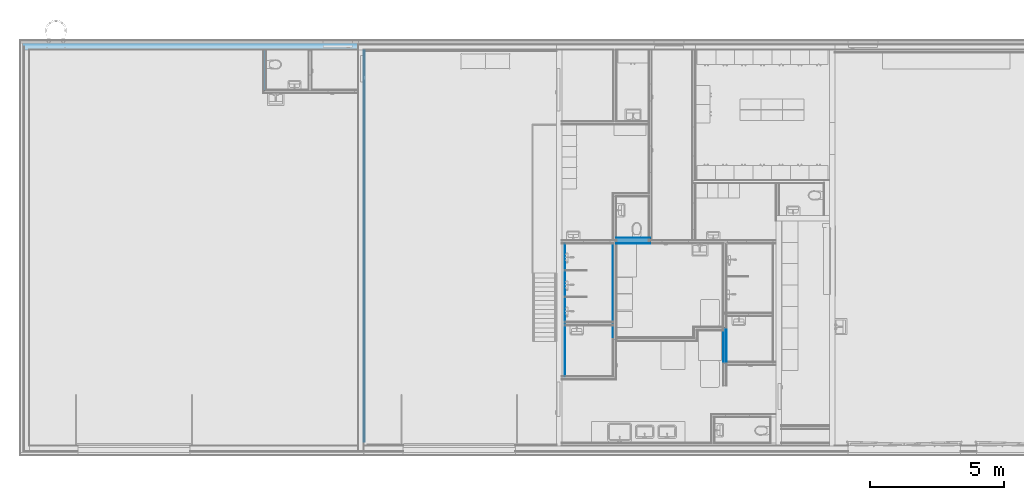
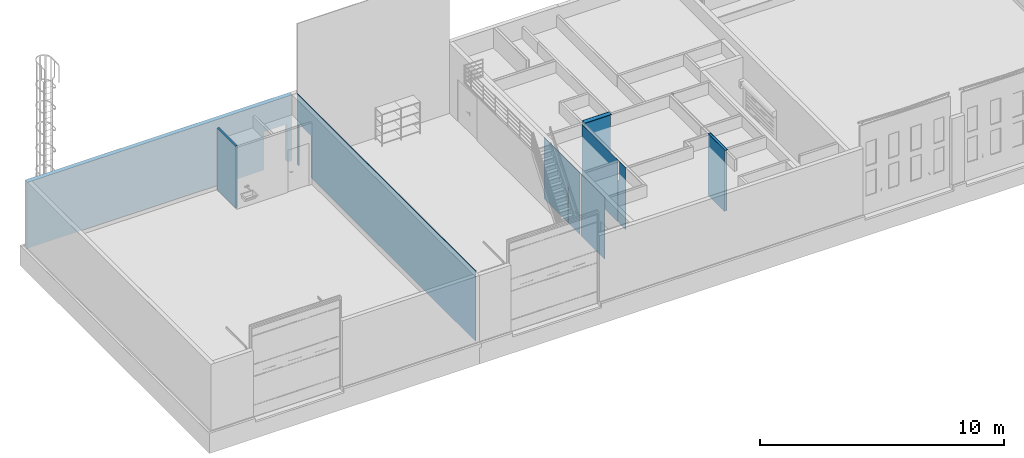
# One storey, part 14 of 67: 13 building element parts, 1 opening, 7 elements without a shape of their own, plus 2 elements that do not belong to this part.
"""IFC4 building model written with IfcOpenShell, lengths in millimetres."""

from ifc_helpers import new_model, entity, si_unit, converted_unit, direction, frame, origin, place, context, subcontext, project, spatial, indexed_curve, outline, extrude, polygons, material, type_object, element, aggregate, save


model = new_model("IFC4")

# Units and contexts
model_context = context("Model", 3, precision=0.01, world=origin(), true_north=direction((0.0, 1.0)))
body_context = subcontext(model_context, "Body", "Model", "MODEL_VIEW")
ifc_project = project(units=[si_unit("LENGTHUNIT", "METRE", prefix="MILLI"), si_unit("AREAUNIT", "SQUARE_METRE"), si_unit("VOLUMEUNIT", "CUBIC_METRE"), converted_unit("PLANEANGLEUNIT", "DEGREE", entity("IfcPlaneAngleMeasure", 0.017453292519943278), si_unit("PLANEANGLEUNIT", "RADIAN"), dimensions=[0, 0, 0, 0, 0, 0, 0])], contexts=[model_context])

# Site, building, storey
site_placement = place(None, origin())
site = spatial("IfcSite", under=ifc_project, at=site_placement, Name="Tomtens navn", CompositionType="ELEMENT")
building_placement = place(site_placement, origin())
building = spatial("IfcBuilding", under=site, at=building_placement, Name="Byggets navn", CompositionType="ELEMENT")
storey_placement = place(building_placement, origin())
storey = spatial("IfcBuildingStorey", under=building, at=storey_placement, Name="Level 01", CompositionType="ELEMENT", Elevation=2.1993652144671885e-25)

# Wall, building element part
wall_type_1 = type_object("IfcWallType", Name="Basic Wall:IV17 - Utforing lekt+fasadeplater", PredefinedType="STANDARD")
wall_1_placement = place(storey_placement, frame((51235.85352810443, 8211.46645692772, 0.0), z_axis=(0.0, 0.0, 1.0), x_axis=(0.0, 1.0, 0.0)))
wall_1 = element("IfcWall", 1, at=wall_1_placement, inside=storey, type_object=wall_type_1, Name="Basic Wall:IV17 - Utforing lekt+fasadeplater", PredefinedType="NOTDEFINED")
ifc_material_1 = material(Name="Stender", Category="Unassigned")
building_element_part_1_placement = place(wall_1_placement, frame((0.0, 23.0, 0.0)))
building_element_part_1 = element("IfcBuildingElementPart", 2, at=building_element_part_1_placement, material=ifc_material_1, Name="Stender", context=body_context, shape_type="Tessellation", body=[
    polygons([(0.0, -36.000000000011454, 7.331217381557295e-26), (13445.000000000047, -36.000000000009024, 7.331217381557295e-26), (13445.000000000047, -36.000000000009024, 2110.0000000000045), (14455.00000000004, -36.00000000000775, 2110.000000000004), (14455.00000000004, -36.00000000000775, 7.331217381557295e-26), (14614.000000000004, -36.00000000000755, 7.331217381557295e-26), (14614.000000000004, -36.00000000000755, 3499.999999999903), (0.0, -36.000000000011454, 3499.999999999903), (0.0, -1.1456257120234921e-11, 3499.999999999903), (14614.000000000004, -7.549740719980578e-12, 3499.999999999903), (14614.000000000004, -7.549740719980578e-12, 2.1993652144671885e-25), (14455.00000000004, -7.750568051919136e-12, 2.1993652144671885e-25), (14455.00000000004, -7.750568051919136e-12, 2110.000000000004), (13445.000000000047, -9.026263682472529e-12, 2110.000000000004), (13445.000000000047, -9.026263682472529e-12, 2.1993652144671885e-25), (0.0, -1.1456257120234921e-11, 1.466243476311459e-25)], [[[1, 2, 3, 4, 5, 6, 7, 8]], [[9, 10, 11, 12, 13, 14, 15, 16]], [[16, 15, 2, 1]], [[10, 9, 8, 7]], [[9, 16, 1, 8]], [[13, 12, 5, 4]], [[14, 13, 4, 3]], [[15, 14, 3, 2]], [[12, 11, 6, 5]], [[11, 10, 7, 6]]], closed=True),
])
aggregate(wall_1, [building_element_part_1])

# Wall, building element parts
wall_type_2 = type_object("IfcWallType", Name="Basic Wall:IV18 -Gips kryssfiner Stender kryssfiner-baderomsplater-13+15+200+15+11", PredefinedType="STANDARD")
wall_2_placement = place(storey_placement, frame((61925.85352810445, 15724.466456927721, 0.0), z_axis=(0.0, 0.0, 1.0), x_axis=(-1.0, 0.0, 0.0)))
wall_2 = element("IfcWall", 3, at=wall_2_placement, inside=storey, type_object=wall_type_2, Name="Basic Wall:IV18 -Gips kryssfiner Stender kryssfiner-baderomsplater-13+15+200+15+11", PredefinedType="NOTDEFINED")
ifc_material_2 = material(Name="Gipsplater", Category="NOR ^ Gips")
building_element_part_2_placement = place(wall_2_placement, frame((1278.0, 120.50000000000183, 0.0)))
building_element_part_2 = element("IfcBuildingElementPart", 4, at=building_element_part_2_placement, material=ifc_material_2, Name="Gipsplater", context=body_context, shape_type="Tessellation", body=[
    polygons([(-15.000000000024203, -13.0, 3079.9999999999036), (-9.651666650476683e-12, -13.0, 3079.9999999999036), (-9.649993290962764e-12, -1.999999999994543, 3079.9999999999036), (-15.000000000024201, -1.999999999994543, 3079.9999999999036), (-9.651666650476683e-12, -13.0, 7.331217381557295e-26), (-1217.5000000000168, -13.0, 7.331217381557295e-26), (-1217.5000000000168, 1.8189894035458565e-12, 2.1993652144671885e-25), (-15.00000000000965, 1.8189894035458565e-12, 2.1993652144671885e-25), (-15.000000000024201, -1.999999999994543, 1.466243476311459e-25), (-9.649993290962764e-12, -1.999999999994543, 1.466243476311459e-25), (-1217.5000000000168, -13.0, 3079.9999999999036), (-1217.5000000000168, 1.8189894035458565e-12, 3079.9999999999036), (-15.000000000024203, -13.0, 3087.999999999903), (-1278.0000000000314, -13.0, 3087.999999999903), (-1278.0000000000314, -13.0, 3079.9999999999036), (-1278.0000000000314, 1.8189894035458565e-12, 3079.9999999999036), (-1278.0000000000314, 1.8189894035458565e-12, 3087.999999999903), (-15.000000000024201, 1.8189894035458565e-12, 3087.999999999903), (-15.000000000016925, 1.8189894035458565e-12, 3079.9999999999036), (-15.000000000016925, -1.999999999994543, 3087.999999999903)], [[[1, 2, 3, 4]], [[5, 6, 7, 8, 9, 10]], [[2, 5, 10, 3]], [[6, 11, 12, 7]], [[6, 5, 2, 1, 13, 14, 15, 11]], [[8, 7, 12, 16, 17, 18, 19]], [[9, 8, 19, 18, 20, 13, 1, 4]], [[10, 9, 4, 3]], [[11, 15, 16, 12]], [[14, 13, 20, 18, 17]], [[16, 15, 14, 17]]], closed=True),
])
ifc_material_3 = material(Name="NO_Konstruksjon - Isolert", Category="Tre")
building_element_part_3_placement = place(wall_2_placement, frame((1278.0, 92.50000000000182, 0.0)))
building_element_part_3 = element("IfcBuildingElementPart", 5, at=building_element_part_3_placement, material=ifc_material_3, Name="NO_Konstruksjon - Isolert", context=body_context, shape_type="Tessellation", body=[
    polygons([(-9.653948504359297e-12, -1.8189894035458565e-12, 3079.9999999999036), (-15.000000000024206, -1.8189894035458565e-12, 3079.9999999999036), (-15.000000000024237, -199.99999999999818, 3079.9999999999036), (-9.684373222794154e-12, -199.99999999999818, 3079.9999999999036), (-9.670377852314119e-12, -107.99999999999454, 3079.9999999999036), (-9.653948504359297e-12, -1.8189894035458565e-12, 7.331217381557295e-26), (-1217.5000000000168, -1.8189894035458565e-12, 7.331217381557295e-26), (-1217.5000000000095, -1.8189894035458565e-12, 3079.9999999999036), (-1278.0000000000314, -1.8189894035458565e-12, 3079.9999999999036), (-1278.0000000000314, -1.8189894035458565e-12, 3087.999999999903), (-15.000000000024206, -1.8189894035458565e-12, 3087.999999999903), (-9.670377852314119e-12, -107.99999999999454, 2.1993652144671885e-25), (-9.684373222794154e-12, -199.99999999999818, 7.331217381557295e-26), (-1217.500000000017, -199.99999999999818, 7.331217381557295e-26), (-1217.500000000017, -107.99999999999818, 2.1993652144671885e-25), (-1217.500000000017, -199.99999999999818, 3079.9999999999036), (-1217.500000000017, -108.0, 3079.9999999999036), (-15.000000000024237, -199.99999999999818, 3087.999999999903), (-1278.0000000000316, -199.99999999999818, 3087.999999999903), (-1278.0000000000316, -199.99999999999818, 3079.9999999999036), (-1278.0000000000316, -107.99999999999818, 3079.9999999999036), (-15.000000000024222, -107.99999999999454, 3087.999999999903), (-1278.0000000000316, -107.99999999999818, 3087.999999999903)], [[[1, 2, 3, 4, 5]], [[6, 7, 8, 9, 10, 11, 2, 1]], [[7, 6, 12, 13, 14, 15]], [[6, 1, 5, 4, 13, 12]], [[8, 7, 15, 14, 16, 17]], [[14, 13, 4, 3, 18, 19, 20, 16]], [[9, 8, 17, 16, 20, 21]], [[2, 11, 22, 18, 3]], [[11, 10, 23, 19, 18, 22]], [[21, 20, 19, 23, 10, 9]]], closed=True),
])
building_element_part_4_placement = place(wall_2_placement, frame((1278.0, -107.50000000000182, 0.0)))
building_element_part_4 = element("IfcBuildingElementPart", 6, at=building_element_part_4_placement, material=ifc_material_2, Name="Gipsplater", context=body_context, shape_type="Tessellation", body=[
    polygons([(-2.4084156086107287e-12, 3.637978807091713e-12, 3079.9999999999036), (-15.00000000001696, 3.637978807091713e-12, 3079.9999999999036), (-15.000000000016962, -12.999999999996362, 3079.9999999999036), (-2.4103932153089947e-12, -12.999999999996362, 3079.9999999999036), (-2.4084156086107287e-12, 3.637978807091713e-12, 7.331217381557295e-26), (-1217.5000000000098, 3.637978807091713e-12, 7.331217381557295e-26), (-1217.5000000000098, 3.637978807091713e-12, 3079.9999999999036), (-1278.0000000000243, 3.637978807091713e-12, 3079.9999999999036), (-1278.0000000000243, 3.637978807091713e-12, 3087.999999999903), (-15.00000000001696, 3.637978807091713e-12, 3087.999999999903), (-2.4103932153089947e-12, -12.999999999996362, 2.1993652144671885e-25), (-1217.5000000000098, -12.999999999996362, 2.1993652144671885e-25), (-1217.5000000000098, -12.999999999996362, 3079.9999999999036), (-15.000000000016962, -12.999999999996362, 3087.999999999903), (-1278.0000000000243, -12.999999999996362, 3087.999999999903), (-1278.0000000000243, -12.999999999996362, 3079.9999999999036)], [[[1, 2, 3, 4]], [[5, 6, 7, 8, 9, 10, 2, 1]], [[6, 5, 11, 12]], [[5, 1, 4, 11]], [[7, 6, 12, 13]], [[12, 11, 4, 3, 14, 15, 16, 13]], [[8, 7, 13, 16]], [[2, 10, 14, 3]], [[10, 9, 15, 14]], [[8, 16, 15, 9]]], closed=True),
])
ifc_material_4 = material(Name="NO_Kryssfiner", Category="Tre")
building_element_part_5_placement = place(wall_2_placement, frame((1278.0, 107.49999999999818, 0.0)))
building_element_part_5 = element("IfcBuildingElementPart", 7, at=building_element_part_5_placement, material=ifc_material_4, Name="NO_Kryssfiner", context=body_context, shape_type="Tessellation", body=[
    polygons([(-15.000000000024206, -14.999999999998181, 3079.9999999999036), (-9.653948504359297e-12, -14.999999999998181, 3079.9999999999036), (-9.651666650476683e-12, 3.637978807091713e-12, 3079.9999999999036), (-15.000000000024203, 3.637978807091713e-12, 3079.9999999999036), (-1217.5000000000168, -14.999999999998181, 7.331217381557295e-26), (-9.653948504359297e-12, -14.999999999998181, 7.331217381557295e-26), (-15.000000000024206, -14.999999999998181, 3087.999999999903), (-1278.0000000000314, -14.999999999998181, 3087.999999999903), (-1278.0000000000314, -14.999999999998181, 3079.9999999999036), (-1217.5000000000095, -14.999999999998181, 3079.9999999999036), (-1217.5000000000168, 3.637978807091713e-12, 7.331217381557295e-26), (-9.651666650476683e-12, 3.637978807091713e-12, 7.331217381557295e-26), (-1217.5000000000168, 3.637978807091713e-12, 3079.9999999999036), (-1278.0000000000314, 3.637978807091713e-12, 3079.9999999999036), (-1278.0000000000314, 3.637978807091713e-12, 3087.999999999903), (-15.000000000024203, 3.637978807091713e-12, 3087.999999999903)], [[[1, 2, 3, 4]], [[5, 6, 2, 1, 7, 8, 9, 10]], [[6, 5, 11, 12]], [[2, 6, 12, 3]], [[5, 10, 13, 11]], [[12, 11, 13, 14, 15, 16, 4, 3]], [[10, 9, 14, 13]], [[7, 1, 4, 16]], [[8, 7, 16, 15]], [[14, 9, 8, 15]]], closed=True),
])
aggregate(wall_2, [building_element_part_2, building_element_part_3, building_element_part_4, building_element_part_5])

# Wall, building element part
wall_type_3 = type_object("IfcWallType", Name="Basic Wall:IV15 Gips kryssfiner 95 stålstender +15mm kryssfiner+baderomsplater 2", PredefinedType="STANDARD")
wall_3_placement = place(storey_placement, frame((60588.353528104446, 15605.966456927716, 0.0), z_axis=(0.0, 0.0, 1.0), x_axis=(0.0, -1.0, 0.0)))
wall_3 = element("IfcWall", 8, at=wall_3_placement, inside=storey, type_object=wall_type_3, Name="Basic Wall:IV15 Gips kryssfiner 95 stålstender +15mm kryssfiner+baderomsplater 2", PredefinedType="NOTDEFINED")
ifc_material_5 = material(Name="NO_Baderomsplater", Category="Tre")
building_element_part_6_placement = place(wall_3_placement, frame((3568.7500000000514, -74.50000000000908, 0.0)))
building_element_part_6 = element("IfcBuildingElementPart", 9, at=building_element_part_6_placement, material=ifc_material_5, Name="NO_Baderomsplater", context=body_context, shape_type="Tessellation", body=[
    polygons([(-519.2500000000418, 10.999999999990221, 2109.9999999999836), (-519.2500000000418, 10.999999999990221, 3079.9999999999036), (-644.2500000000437, 11.000000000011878, 3079.9999999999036), (-644.2500000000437, 11.000000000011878, 2109.9999999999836), (0.0, 10.999999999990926, 7.331217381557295e-26), (-3568.750000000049, 11.000000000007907, 7.331217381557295e-26), (-3568.750000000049, 11.000000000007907, 3079.9999999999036), (-3568.750000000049, 11.000000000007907, 3087.999999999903), (0.0, 10.999999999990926, 3087.999999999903), (0.0, 10.999999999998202, 3079.9999999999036), (0.0, 5.477919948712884e-12, 2.1993652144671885e-25), (-508.25000000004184, 4.787572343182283e-12, 2.1993652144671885e-25), (-508.25000000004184, 10.000000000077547, 2.1993652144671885e-25), (-655.2500000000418, 10.000000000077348, 2.1993652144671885e-25), (-655.2500000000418, 1.1863862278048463e-11, 2.1993652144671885e-25), (-3568.750000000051, 7.906503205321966e-12, 2.1993652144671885e-25), (-3568.750000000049, 7.90650320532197e-12, 3079.9999999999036), (-3568.750000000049, 7.90650320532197e-12, 3087.999999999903), (0.0, 5.477919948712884e-12, 3087.999999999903), (0.0, 5.477919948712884e-12, 3079.9999999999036), (-655.2500000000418, 1.1863862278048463e-11, 2109.9999999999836), (-644.2500000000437, 1.1878803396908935e-11, 2109.9999999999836), (-644.2500000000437, 4.602845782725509e-12, 3079.9999999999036), (-519.2500000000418, 4.772631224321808e-12, 3079.9999999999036), (-519.2500000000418, 1.2048588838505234e-11, 2109.9999999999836), (-508.25000000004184, 1.206352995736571e-11, 2109.9999999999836), (-655.2500000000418, 10.000000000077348, 2109.9999999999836), (-508.25000000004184, 10.000000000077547, 2109.9999999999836), (-519.2500000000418, 10.000000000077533, 2109.9999999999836), (-644.2500000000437, 10.000000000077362, 2109.9999999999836)], [[[5, 6, 7, 8, 9, 10], [1, 2, 3, 4]], [[6, 5, 11, 12, 13, 14, 15, 16]], [[7, 6, 16, 17, 18, 8]], [[5, 10, 9, 19, 20, 11]], [[17, 16, 15, 21, 22, 23, 24, 25, 26, 12, 11, 20, 19, 18]], [[21, 15, 14, 27]], [[28, 26, 25, 29]], [[12, 26, 28, 13]], [[14, 13, 28, 29, 30, 27]], [[30, 4, 3, 23, 22]], [[4, 30, 29, 1]], [[1, 29, 25, 24, 2]], [[24, 23, 3, 2]], [[9, 8, 18, 19]], [[21, 27, 30, 22]]], closed=True),
])
aggregate(wall_3, [building_element_part_6])

# Wall, building element parts
wall_type_4 = type_object("IfcWallType", Name="Basic Wall:IV11  95 Utforing 15mm kryssfiner baderomsplater 2", PredefinedType="STANDARD")
wall_4_placement = place(storey_placement, frame((58683.35352810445, 15605.966456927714, 0.0), z_axis=(0.0, 0.0, 1.0), x_axis=(0.0, -1.0, 0.0)))
wall_4 = element("IfcWall", 10, at=wall_4_placement, inside=storey, type_object=wall_type_4, Name="Basic Wall:IV11  95 Utforing 15mm kryssfiner baderomsplater 2", PredefinedType="NOTDEFINED")
building_element_part_7_placement = place(wall_4_placement, frame((4956.500000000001, 34.50000000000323, 0.0)))
building_element_part_7 = element("IfcBuildingElementPart", 11, at=building_element_part_7_placement, material=ifc_material_4, Name="NO_Kryssfiner", context=body_context, shape_type="Tessellation", body=[
    polygons([(-4967.5, 15.00000000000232, 3081.3461377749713), (-1.8189894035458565e-12, 14.999999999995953, 3081.3461377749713), (-1.8189894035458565e-12, 14.999999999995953, 5.414335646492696e-13), (-1921.9999999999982, 15.000000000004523, 1.8047785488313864e-13), (-1921.9999999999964, 15.000000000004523, 3079.999999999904), (-2016.9999999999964, 15.000000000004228, 3079.999999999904), (-2016.9999999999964, 15.000000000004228, 1.8047785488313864e-13), (-2959.4999999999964, 15.000000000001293, 1.8047785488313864e-13), (-2959.4999999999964, 15.000000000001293, 1800.0000000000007), (-2979.499999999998, 15.000000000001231, 1800.0000000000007), (-2979.499999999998, 15.000000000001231, 1.8047785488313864e-13), (-3959.5, 15.000000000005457, 1.8047785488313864e-13), (-3959.5, 15.000000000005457, 1800.0000000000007), (-3979.499999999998, 15.000000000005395, 1800.0000000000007), (-3979.499999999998, 15.000000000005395, 1.8047785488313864e-13), (-4967.5, 15.00000000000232, 5.414335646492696e-13), (0.0, 3.230103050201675e-12, 5.414335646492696e-13), (-1921.9999999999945, -2.752703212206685e-12, 5.414335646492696e-13), (-4967.499999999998, 2.3191722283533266e-12, 3081.3461377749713), (0.0, 3.230103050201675e-12, 3081.3461377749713), (-4967.499999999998, 2.3191722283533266e-12, 5.414335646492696e-13), (-3979.4999999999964, 5.394621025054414e-12, 5.442535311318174e-13), (-3979.4999999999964, 5.394621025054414e-12, 1800.0000000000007), (-3959.499999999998, 5.456877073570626e-12, 1800.0000000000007), (-3959.499999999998, 5.456877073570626e-12, 5.442535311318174e-13), (-2979.4999999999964, -6.044491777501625e-12, 5.442535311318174e-13), (-2979.4999999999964, 8.507423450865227e-12, 1800.0000000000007), (-2959.4999999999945, 8.569679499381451e-12, 1800.0000000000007), (-2959.4999999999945, -5.9822357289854e-12, 5.414335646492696e-13), (-2016.9999999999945, -3.048419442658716e-12, 5.442535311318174e-13), (-2016.9999999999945, -3.048419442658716e-12, 3079.999999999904), (-1921.9999999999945, -2.752703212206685e-12, 3079.999999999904)], [[[1, 2, 3, 4, 5, 6, 7, 8, 9, 10, 11, 12, 13, 14, 15, 16]], [[3, 17, 18, 4]], [[2, 1, 19, 20]], [[20, 19, 21, 22, 23, 24, 25, 26, 27, 28, 29, 30, 31, 32, 18, 17]], [[16, 21, 19, 1]], [[17, 3, 2, 20]], [[10, 27, 26, 11]], [[28, 9, 8, 29]], [[27, 10, 9, 28]], [[14, 23, 22, 15]], [[24, 13, 12, 25]], [[23, 14, 13, 24]], [[32, 5, 4, 18]], [[6, 31, 30, 7]], [[5, 32, 31, 6]], [[21, 16, 15, 22]], [[11, 26, 25, 12]], [[29, 8, 7, 30]]], closed=True),
])
building_element_part_8_placement = place(wall_4_placement, frame((4945.5, 49.50000000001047, 0.0)))
building_element_part_8 = element("IfcBuildingElementPart", 12, at=building_element_part_8_placement, material=ifc_material_5, Name="NO_Baderomsplater", context=body_context, shape_type="Tessellation", body=[
    polygons([(-3.637978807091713e-12, -1.1356053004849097e-11, 7.331217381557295e-26), (-3.637978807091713e-12, -1.1356053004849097e-11, 3081.346137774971), (-4945.500000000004, -4.922544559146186e-12, 3081.346137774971), (-4945.500000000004, -4.922544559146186e-12, 7.331217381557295e-26), (-3968.5, -1.8813365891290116e-12, 2.81996648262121e-15), (-3968.5, -1.8813365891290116e-12, 1800.0000000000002), (-3948.500000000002, -1.8190805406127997e-12, 1800.0000000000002), (-3948.500000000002, -1.8190805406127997e-12, 2.81996648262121e-15), (-2968.5, -6.044491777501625e-12, 2.81996648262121e-15), (-2968.5, -6.044491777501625e-12, 1800.0000000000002), (-2948.499999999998, -5.9822357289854e-12, 1800.0000000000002), (-2948.499999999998, -5.9822357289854e-12, 7.331217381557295e-26), (-2020.9999999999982, -3.0951114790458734e-12, 7.331217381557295e-26), (-2020.9999999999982, -3.0951114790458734e-12, 3079.9999999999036), (-1895.9999999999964, -2.706011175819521e-12, 3079.9999999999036), (-1895.9999999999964, -2.706011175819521e-12, 7.331217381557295e-26), (-4945.500000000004, 11.000000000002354, 2.1993652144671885e-25), (-4945.500000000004, 11.000000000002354, 3081.346137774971), (-3.637978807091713e-12, 11.000000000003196, 3081.346137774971), (-3.637978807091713e-12, 11.000000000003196, 2.1993652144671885e-25), (-1884.9999999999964, 10.999999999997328, 2.1993652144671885e-25), (-1895.9999999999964, 10.999999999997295, 2.1993652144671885e-25), (-1895.9999999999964, 10.999999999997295, 3079.9999999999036), (-2021.0, 10.999999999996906, 3079.9999999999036), (-2020.9999999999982, 10.999999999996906, 2.1993652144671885e-25), (-2031.9999999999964, 10.99999999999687, 2.1993652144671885e-25), (-2948.499999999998, 11.00000000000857, 2.1993652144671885e-25), (-2948.499999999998, 11.00000000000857, 1800.0000000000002), (-2968.5, 11.000000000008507, 1800.0000000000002), (-2968.5, 11.000000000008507, 2.1993652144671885e-25), (-3948.500000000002, 11.000000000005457, 2.1993652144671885e-25), (-3948.500000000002, 11.000000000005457, 1800.0000000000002), (-3968.5, 11.000000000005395, 1800.0000000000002), (-3968.5, 11.000000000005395, 2.1993652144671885e-25)], [[[1, 2, 3, 4, 5, 6, 7, 8, 9, 10, 11, 12, 13, 14, 15, 16]], [[17, 18, 19, 20, 21, 22, 23, 24, 25, 26, 27, 28, 29, 30, 31, 32, 33, 34]], [[17, 34, 5, 4]], [[3, 2, 19, 18]], [[2, 1, 20, 19]], [[4, 3, 18, 17]], [[29, 10, 9, 30]], [[11, 28, 27, 12]], [[10, 29, 28, 11]], [[33, 6, 5, 34]], [[7, 32, 31, 8]], [[6, 33, 32, 7]], [[24, 14, 13, 25]], [[14, 24, 23, 15]], [[15, 23, 22, 16]], [[31, 30, 9, 8]], [[27, 26, 25, 13, 12]], [[21, 20, 1, 16, 22]]], closed=True),
])
aggregate(wall_4, [building_element_part_7, building_element_part_8])

wall_type_5 = type_object("IfcWallType", Name="Basic Wall:IV08 Forestia 95 stålstender +15mm kryssfiner+baderomsplater 2", PredefinedType="STANDARD")
wall_5_placement = place(storey_placement, frame((64722.85352810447, 11067.466456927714, 0.0), z_axis=(0.0, 0.0, 1.0), x_axis=(0.0, 1.0, 0.0)))
wall_5 = element("IfcWall", 13, at=wall_5_placement, inside=storey, type_object=wall_type_5, Name="Basic Wall:IV08 Forestia 95 stålstender +15mm kryssfiner+baderomsplater 2", PredefinedType="NOTDEFINED")
building_element_part_9_placement = place(wall_5_placement, frame((0.0, -41.0, 0.0)))
building_element_part_9 = element("IfcBuildingElementPart", 14, at=building_element_part_9_placement, material=ifc_material_4, Name="NO_Kryssfiner", context=body_context, shape_type="Tessellation", body=[
    polygons([(67.89010540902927, -15.000000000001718, 7.331217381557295e-26), (1411.6401054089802, -14.999999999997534, 7.331217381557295e-26), (1411.6401054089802, -15.000000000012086, 3080.0), (1411.6401054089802, -14.999999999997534, 3087.999999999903), (0.0, -15.00000000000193, 3087.999999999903), (1.8189894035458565e-12, -15.00000000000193, 3080.0), (67.89010540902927, -15.000000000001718, 3079.9999999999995), (67.89010540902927, -12.999999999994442, 2.1993652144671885e-25), (67.89010540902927, -8.993580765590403e-12, 7.331217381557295e-26), (1411.6401054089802, -1.2086710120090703e-11, 7.331217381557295e-26), (67.89010540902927, -12.999999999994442, 3080.0), (67.89010540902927, -8.993580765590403e-12, 3080.0), (1411.6401054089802, -1.2086710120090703e-11, 3080.0), (1411.6401054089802, -1.2086710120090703e-11, 3087.999999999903), (1.8189894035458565e-12, -9.204909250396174e-12, 3080.0), (0.0, -9.20490925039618e-12, 3087.999999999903), (0.0, -13.00000000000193, 3080.0)], [[[1, 2, 3, 4, 5, 6, 7]], [[2, 1, 8, 9, 10]], [[1, 7, 11, 12, 9, 8]], [[3, 2, 10, 13, 14, 4]], [[10, 9, 12, 15, 16, 14, 13]], [[7, 6, 17, 15, 12, 11]], [[17, 6, 5, 16, 15]], [[5, 4, 14, 16]]], closed=True),
])
building_element_part_10_placement = place(wall_5_placement, frame((0.0, 54.0, 0.0)))
building_element_part_10 = element("IfcBuildingElementPart", 15, at=building_element_part_10_placement, material=ifc_material_1, Name="Stender", context=body_context, shape_type="Tessellation", body=[
    polygons([(1411.6401054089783, 2.4652051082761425e-12, 7.331217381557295e-26), (67.89010540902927, 1.2834292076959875e-11, 7.331217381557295e-26), (67.89010540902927, 1.2834292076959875e-11, 3080.0), (1.8189894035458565e-12, 1.2622963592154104e-11, 3080.0), (1.8189894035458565e-12, 1.2622963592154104e-11, 3087.999999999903), (1411.6401054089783, 2.4652051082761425e-12, 3087.999999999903), (1411.6401054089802, 2.465205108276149e-12, 3080.0), (1411.6401054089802, -94.99999999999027, 7.331217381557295e-26), (67.89010540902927, -94.99999999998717, 7.331217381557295e-26), (67.89010540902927, -94.99999999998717, 3080.0), (1411.6401054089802, -94.99999999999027, 3087.999999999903), (1411.6401054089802, -94.99999999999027, 3080.0), (0.0, -94.99999999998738, 3087.999999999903), (1.8189894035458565e-12, -94.99999999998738, 3080.0)], [[[1, 2, 3, 4, 5, 6, 7]], [[2, 1, 8, 9]], [[3, 2, 9, 10]], [[1, 7, 6, 11, 12, 8]], [[9, 8, 12, 11, 13, 14, 10]], [[4, 3, 10, 14]], [[4, 14, 13, 5]], [[6, 5, 13, 11]]], closed=True),
])
ifc_material_6 = material(Name="NO_platekledning forestia", Category="Tre")
building_element_part_11_placement = place(wall_5_placement, frame((0.0, 67.0, 0.0)))
building_element_part_11 = element("IfcBuildingElementPart", 16, at=building_element_part_11_placement, material=ifc_material_6, Name="NO_platekledning forestia", context=body_context, shape_type="Tessellation", body=[
    polygons([(67.89010540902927, -13.000000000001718, 7.331217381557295e-26), (1411.6401054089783, -13.000000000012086, 7.331217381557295e-26), (1411.6401054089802, -13.000000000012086, 3080.0), (1411.6401054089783, -13.000000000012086, 3087.999999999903), (1.8189894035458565e-12, -13.00000000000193, 3087.999999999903), (1.8189894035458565e-12, -13.00000000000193, 3080.0), (67.89010540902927, -13.000000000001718, 3080.0), (67.89010540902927, -1.7176231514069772e-12, 1.466243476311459e-25), (1295.2499999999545, -5.173051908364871e-12, 2.1993652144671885e-25), (1411.6401054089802, -4.810752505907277e-12, 2.1993652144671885e-25), (67.89010540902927, -1.7176231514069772e-12, 3080.0), (1411.6401054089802, -4.810752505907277e-12, 3079.999999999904), (1411.6401054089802, -4.810752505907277e-12, 3087.999999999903), (0.0, -1.9289516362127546e-12, 3080.0), (0.0, -1.9289516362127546e-12, 3087.999999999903)], [[[1, 2, 3, 4, 5, 6, 7]], [[2, 1, 8, 9, 10]], [[1, 7, 11, 8]], [[3, 2, 10, 12, 13, 4]], [[10, 9, 8, 11, 14, 15, 13, 12]], [[7, 6, 14, 11]], [[14, 6, 5, 15]], [[5, 4, 13, 15]]], closed=True),
])
building_element_part_12_placement = place(wall_5_placement, frame((0.0, -56.0, 0.0)))
building_element_part_12 = element("IfcBuildingElementPart", 17, at=building_element_part_12_placement, material=ifc_material_5, Name="NO_Baderomsplater", context=body_context, shape_type="Tessellation", body=[
    polygons([(1411.6401054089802, 9.741162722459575e-12, 7.331217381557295e-26), (67.89010540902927, 5.558334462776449e-12, 7.331217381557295e-26), (67.89010540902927, 5.558334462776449e-12, 3080.0), (1.8189894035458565e-12, 5.347005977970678e-12, 3079.9999999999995), (0.0, 5.347005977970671e-12, 3087.999999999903), (1411.6401054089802, 9.741162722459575e-12, 3087.999999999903), (1411.6401054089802, -4.810752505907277e-12, 3080.0), (1411.6401054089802, -11.00000000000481, 2.1993652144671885e-25), (134.0, -11.000000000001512, 2.1993652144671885e-25), (67.89010540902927, -11.000000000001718, 1.466243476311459e-25), (67.89010540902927, -11.000000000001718, 3080.0), (1411.6401054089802, -11.00000000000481, 3087.999999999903), (1411.6401054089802, -11.00000000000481, 3080.0), (134.0, -11.000000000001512, 3087.999999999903), (0.0, -11.00000000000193, 3087.999999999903), (0.0, -11.00000000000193, 3080.0)], [[[1, 2, 3, 4, 5, 6, 7]], [[2, 1, 8, 9, 10]], [[3, 2, 10, 11]], [[1, 7, 6, 12, 13, 8]], [[10, 9, 8, 13, 12, 14, 15, 16, 11]], [[4, 3, 11, 16]], [[4, 16, 15, 5]], [[6, 5, 15, 14, 12]]], closed=True),
])
aggregate(wall_5, [building_element_part_9, building_element_part_10, building_element_part_11, building_element_part_12])

# Wall, opening, building element parts
wall_type_6 = type_object("IfcWallType", Name="Basic Wall:YV02 Sandwichvegg 200", PredefinedType="STANDARD")
wall_6_placement = place(storey_placement, frame((38512.853528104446, 22961.46645692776, 200.0)))
wall_6 = element("IfcWall", 18, at=wall_6_placement, inside=storey, type_object=wall_type_6, Name="Basic Wall:YV02 Sandwichvegg 200", PredefinedType="NOTDEFINED")
opening_placement = place(wall_6_placement, frame((11170.0, -100.0, -200.0)))
element("IfcOpeningElement", 19, at=opening_placement, cuts=wall_6, Name="Enfløyet:YD02 Ytterdør 11x21M mørk grå:1", PredefinedType="OPENING", context=body_context, shape_type="SweptSolid", body=[
    extrude(outline(indexed_curve([(0.0, -4.207347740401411e-32), (2110.000000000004, -4.207347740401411e-32), (2110.000000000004, 1109.9999999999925), (0.0, 1109.9999999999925), (0.0, -4.207347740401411e-32)], self_intersect=False)), frame((0.0, 0.0, 0.0), z_axis=(0.0, 1.0, 0.0), x_axis=(0.0, 0.0, 1.0)), (0.0, 0.0, 1.0), 200.0),
])
ifc_material_7 = material(Name="Metall - Malt overflate - Mørk Grå, Matt", Category="Unassigned")
building_element_part_13_placement = place(wall_6_placement, frame((0.0, 98.0, 0.0)))
building_element_part_13 = element("IfcBuildingElementPart", 20, at=building_element_part_13_placement, material=ifc_material_7, Name="Metall - Malt overflate - Mørk Grå, Matt", context=body_context, shape_type="Tessellation", body=[
    polygons([(3.169830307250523e-12, 0.0, 0.0), (11170.000000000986, -3.637978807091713e-12, 0.0), (11170.000000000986, -3.637978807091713e-12, 1910.000000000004), (12280.000000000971, -3.637978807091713e-12, 1910.000000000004), (12280.000000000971, -3.637978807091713e-12, 0.0), (12500.000000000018, -3.637978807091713e-12, 0.0), (12500.000000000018, -3.637978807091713e-12, 3299.999999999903), (3.169830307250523e-12, 0.0, 3299.999999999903), (3.1701052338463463e-12, 2.0, 0.0), (11170.000000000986, 1.999999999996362, 0.0), (200.00000000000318, 2.0, 3299.999999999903), (3.1701052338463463e-12, 2.0, 3299.999999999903), (12500.000000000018, 1.999999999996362, 3299.999999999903), (12500.000000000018, 1.999999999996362, 0.0), (11170.000000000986, 1.999999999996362, 1910.000000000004), (12280.000000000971, 1.999999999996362, 1910.000000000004), (12280.000000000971, 1.999999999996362, 0.0)], [[[1, 2, 3, 4, 5, 6, 7, 8]], [[9, 10, 2, 1]], [[11, 12, 8, 7, 13]], [[12, 9, 1, 8]], [[14, 13, 7, 6]], [[10, 15, 3, 2]], [[15, 16, 4, 3]], [[16, 17, 5, 4]], [[17, 14, 6, 5]], [[12, 11, 13, 14, 17, 16, 15, 10, 9]]], closed=True),
])
ifc_material_8 = material(Name="NO_Isolasjon - Fast", Category="Isolasjon")
building_element_part_14_placement = place(wall_6_placement, frame((2.0, -98.0, 0.0)))
building_element_part_14 = element("IfcBuildingElementPart", 21, at=building_element_part_14_placement, material=ifc_material_8, Name="NO_Isolasjon - Fast", context=body_context, shape_type="Tessellation", body=[
    polygons([(11168.000000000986, 195.99999999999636, 0.0), (3.169830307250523e-12, 196.0, 0.0), (3.169830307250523e-12, 196.0, 3299.999999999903), (12498.000000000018, 195.99999999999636, 3299.999999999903), (12498.000000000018, 195.99999999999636, 0.0), (12278.000000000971, 195.99999999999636, 0.0), (12278.000000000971, 195.99999999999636, 1910.000000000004), (11168.000000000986, 195.99999999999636, 1910.000000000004), (3.1428875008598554e-12, 0.0, 0.0), (11168.000000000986, -3.637978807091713e-12, 0.0), (11168.000000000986, -3.637978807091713e-12, 1910.000000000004), (12278.000000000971, -3.637978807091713e-12, 1910.000000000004), (12278.000000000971, -3.637978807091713e-12, 0.0), (12498.000000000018, -3.637978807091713e-12, 0.0), (12498.000000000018, -3.637978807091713e-12, 3299.999999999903), (3.1428875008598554e-12, 0.0, 3299.999999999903)], [[[1, 2, 3, 4, 5, 6, 7, 8]], [[9, 10, 11, 12, 13, 14, 15, 16]], [[9, 2, 1, 10]], [[15, 4, 3, 16]], [[14, 5, 4, 15]], [[10, 1, 8, 11]], [[11, 8, 7, 12]], [[6, 13, 12, 7]], [[5, 14, 13, 6]], [[2, 9, 16, 3]]], closed=True),
])
aggregate(wall_6, [building_element_part_13, building_element_part_14])

# Wall, building element part
wall_type_7 = type_object("IfcWallType", Name="Basic Wall:IV02 Gips Stender Gips-120mm", PredefinedType="STANDARD")
wall_7_placement = place(storey_placement, frame((47512.853528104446, 21361.46645692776, 0.0), z_axis=(0.0, 0.0, 1.0), x_axis=(0.0, 1.0, 0.0)))
wall_7 = element("IfcWall", 22, at=wall_7_placement, inside=storey, type_object=wall_type_7, Name="Basic Wall:IV02 Gips Stender Gips-120mm", PredefinedType="NOTDEFINED")
building_element_part_15_placement = place(wall_7_placement, frame((-13.0, 47.49999999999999, 0.0)))
building_element_part_15 = element("IfcBuildingElementPart", 23, at=building_element_part_15_placement, material=ifc_material_1, Name="Stender", context=body_context, shape_type="Tessellation", body=[
    polygons([(0.0, -95.0, 7.331217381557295e-26), (1513.0000000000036, -95.0, 7.331217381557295e-26), (1513.0000000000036, -95.0, 200.0000000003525), (1515.0, -95.0, 200.0000000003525), (1515.0, -95.0, 3079.9999999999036), (0.0, -95.0, 3079.9999999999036), (0.0, -95.0, 200.0000000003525), (0.0, 0.0, 7.331217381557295e-26), (1513.0000000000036, 0.0, 7.331217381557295e-26), (1513.0000000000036, 0.0, 200.0000000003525), (0.0, 0.0, 200.0000000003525), (0.0, 0.0, 3079.9999999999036), (1515.0, 0.0, 3079.9999999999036), (1515.0, 0.0, 200.0000000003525)], [[[1, 2, 3, 4, 5, 6, 7]], [[2, 1, 8, 9]], [[3, 2, 9, 10]], [[9, 8, 11, 12, 13, 14, 10]], [[8, 1, 7, 6, 12, 11]], [[14, 4, 3, 10]], [[6, 5, 13, 12]], [[4, 14, 13, 5]]], closed=True),
])
aggregate(wall_7, [building_element_part_15])

save(model, "model.ifc")
